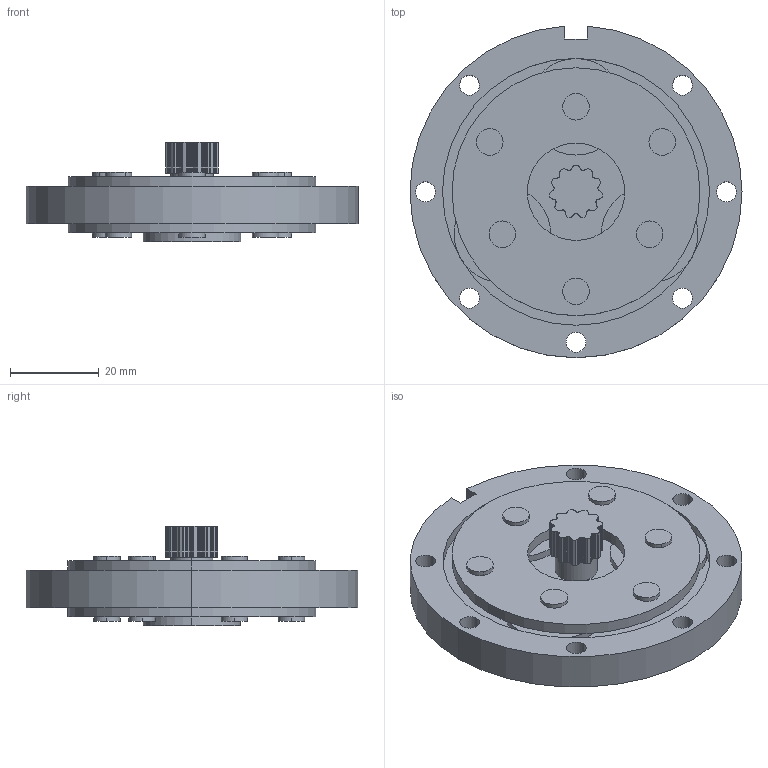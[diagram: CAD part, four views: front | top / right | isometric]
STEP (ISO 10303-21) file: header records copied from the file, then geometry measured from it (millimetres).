
FILE_DESCRIPTION (( 'STEP AP203' ), '1' );
FILE_NAME ('LGU75-4MLD.step', '2021-07-23T02:28:01', ( '' ), ( '' ), 'SwSTEP 2.0', 'SolidWorks 2021', '' );
FILE_SCHEMA (( 'CONFIG_CONTROL_DESIGN' ));
Length unit declared in the file: millimetre
Products named in the file (1): LGU75-4MLD
Bounding box: 75 x 74.92 x 22.5 mm (x, y, z)
Volume: 39278.3 mm3; surface area: 23768.8 mm2
Topology: 1 solids, 1 shells, 422 faces, 1179 edges, 786 vertices
Faces by surface type: cylinder 390, plane 32
Entity records: 14172 total; most frequent: DIRECTION 2805, CARTESIAN_POINT 2388, ORIENTED_EDGE 2358, AXIS2_PLACEMENT_3D 1203, EDGE_CURVE 1179, VERTEX_POINT 786, CIRCLE 780, EDGE_LOOP 475
